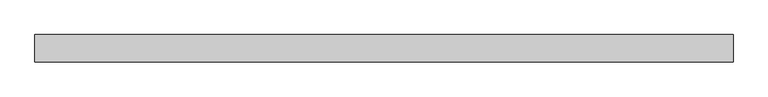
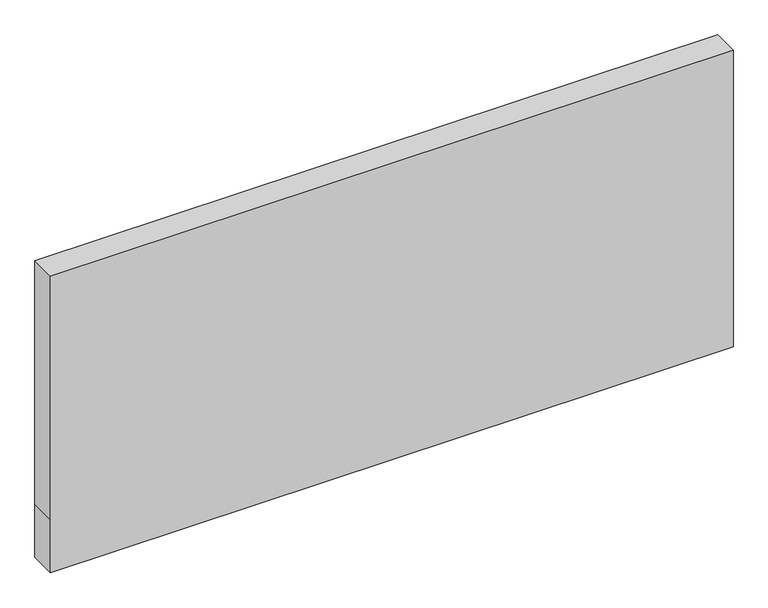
"""IFC4 building model written with IfcOpenShell, lengths in millimetres: plate geometry, 系统嵌板 : 玻璃."""

from ifc_helpers import new_model, si_unit, frame, origin, place, context, project, spatial, polyline, outline, extrude, source, transform, mapped, element, save


def plate_8eec5e89(model_context):
    return source(origin(), model_context, "Body", "SweptSolid", [
        extrude(outline(polyline([(0.0, -762.5), (0.0, 762.5), (125.0, 762.5), (700.0, 762.5), (700.0, -762.5), (125.0, -762.5), (0.0, -762.5)])), frame((0.0, -30.0, 0.0), z_axis=(0.0, 1.0, 0.0), x_axis=(0.0, 0.0, 1.0)), (0.0, 0.0, 1.0), 60.0),
    ])


if __name__ == "__main__":
    model = new_model("IFC4")
    model_context = context("Model", 3, world=origin())
    ifc_project = project(units=[si_unit("LENGTHUNIT", "METRE", prefix="MILLI")], contexts=[model_context])
    site = spatial("IfcSite", under=ifc_project)
    building = spatial("IfcBuilding", under=site)
    placement = place(None, origin())
    plate_shape = plate_8eec5e89(model_context)
    element("IfcPlate", 1, ObjectType="系统嵌板 : 玻璃", at=placement, inside=building, context=model_context, shape_type="MappedRepresentation", body=[
        mapped(plate_shape, transform((0.0, 0.0, 0.0), x_axis=(1.0, 0.0, 0.0), y_axis=(0.0, 1.0, 0.0), z_axis=(0.0, 0.0, 1.0))),
    ])
    save(model, "model.ifc")
